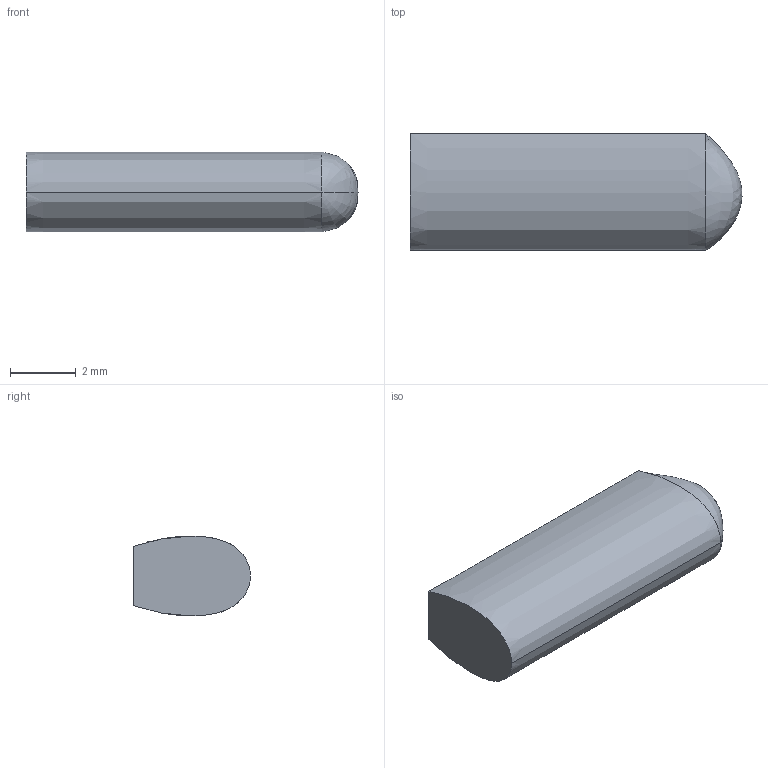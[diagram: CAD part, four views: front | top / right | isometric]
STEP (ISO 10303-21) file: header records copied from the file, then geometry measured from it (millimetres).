
FILE_DESCRIPTION((''),'1');
FILE_NAME('ELEK-ST12-12E','2001-03-29T',('rgoetz'),(''),'PRO/ENGINEER BY PARAMETRIC TECHNOLOGY CORPORATION, 2000350','PRO/ENGINEER BY PARAMETRIC TECHNOLOGY CORPORATION, 2000350','');
FILE_SCHEMA(('CONFIG_CONTROL_DESIGN'));
Length unit declared in the file: millimetre
Products named in the file (1): ELEK-ST12-12E
Bounding box: 10.1 x 3.55 x 2.43 mm (x, y, z)
Volume: 71.7 mm3; surface area: 111 mm2
Topology: 1 solids, 1 shells, 6 faces, 13 edges, 7 vertices
Faces by surface type: plane 2, extrusion 2, bspline 2
Entity records: 515 total; most frequent: CARTESIAN_POINT 374, ORIENTED_EDGE 22, EDGE_CURVE 11, DIRECTION 10, B_SPLINE_CURVE_WITH_KNOTS 9, VERTEX_POINT 7, VECTOR 6, EDGE_LOOP 6
